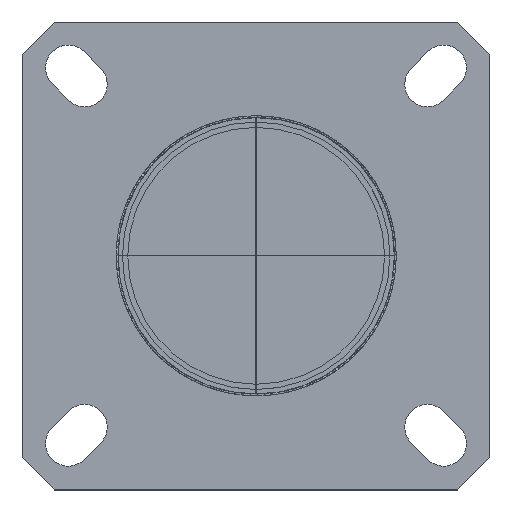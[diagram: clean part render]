
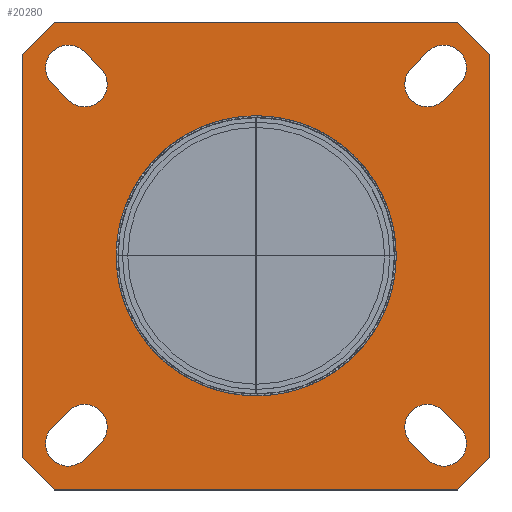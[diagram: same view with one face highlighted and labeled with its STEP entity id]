
A CAD part, top view. The second image highlights one B-rep face of the part: STEP entity #20280.
In plain terms, the highlighted planar face has unit normal (0, 0, 1).
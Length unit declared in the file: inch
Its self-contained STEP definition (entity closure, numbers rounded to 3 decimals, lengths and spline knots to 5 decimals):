
#6694=CARTESIAN_POINT('',(0.,0.,0.));
#6695=DIRECTION('',(0.,0.,1.));
#6696=DIRECTION('',(1.,0.,0.));
#6697=AXIS2_PLACEMENT_3D('',#6694,#6695,#6696);
#8747=DIRECTION('',(0.707,0.707,0.));
#8748=VECTOR('',#8747,0.128);
#8749=CARTESIAN_POINT('',(-0.662,0.57049,0.));
#8750=LINE('',#8749,#8748);
#8751=DIRECTION('',(1.,0.,0.));
#8752=VECTOR('',#8751,1.14198);
#8753=CARTESIAN_POINT('',(-0.57149,0.661,0.));
#8754=LINE('',#8753,#8752);
#8755=DIRECTION('',(0.707,-0.707,0.));
#8756=VECTOR('',#8755,0.128);
#8757=CARTESIAN_POINT('',(0.57049,0.661,0.));
#8758=LINE('',#8757,#8756);
#8759=DIRECTION('',(0.,-1.,0.));
#8760=VECTOR('',#8759,1.14198);
#8761=CARTESIAN_POINT('',(0.661,0.57049,0.));
#8762=LINE('',#8761,#8760);
#8763=DIRECTION('',(-0.707,-0.707,0.));
#8764=VECTOR('',#8763,0.128);
#8765=CARTESIAN_POINT('',(0.661,-0.57149,0.));
#8766=LINE('',#8765,#8764);
#8767=DIRECTION('',(-1.,0.,0.));
#8768=VECTOR('',#8767,1.14198);
#8769=CARTESIAN_POINT('',(0.57049,-0.662,0.));
#8770=LINE('',#8769,#8768);
#8771=DIRECTION('',(-0.707,0.707,0.));
#8772=VECTOR('',#8771,0.128);
#8773=CARTESIAN_POINT('',(-0.57149,-0.662,0.));
#8774=LINE('',#8773,#8772);
#8775=DIRECTION('',(0.,1.,0.));
#8776=VECTOR('',#8775,1.14198);
#8777=CARTESIAN_POINT('',(-0.662,-0.57149,0.));
#8778=LINE('',#8777,#8776);
#8779=DIRECTION('',(-0.707,-0.707,0.));
#8780=VECTOR('',#8779,0.06576);
#8781=CARTESIAN_POINT('',(-0.53025,-0.43875,0.));
#8782=LINE('',#8781,#8780);
#8783=CARTESIAN_POINT('',(-0.5315,-0.5305,0.));
#8784=DIRECTION('',(0.,0.,1.));
#8785=DIRECTION('',(-0.707,0.707,0.));
#8786=AXIS2_PLACEMENT_3D('',#8783,#8784,#8785);
#8788=DIRECTION('',(0.707,0.707,0.));
#8789=VECTOR('',#8788,0.06576);
#8790=CARTESIAN_POINT('',(-0.48625,-0.57575,0.));
#8791=LINE('',#8790,#8789);
#8792=CARTESIAN_POINT('',(-0.485,-0.484,0.));
#8793=DIRECTION('',(0.,0.,1.));
#8794=DIRECTION('',(0.707,-0.707,0.));
#8795=AXIS2_PLACEMENT_3D('',#8792,#8793,#8794);
#8797=DIRECTION('',(0.707,-0.707,0.));
#8798=VECTOR('',#8797,0.06576);
#8799=CARTESIAN_POINT('',(-0.57675,0.48625,0.));
#8800=LINE('',#8799,#8798);
#8801=CARTESIAN_POINT('',(-0.485,0.485,0.));
#8802=DIRECTION('',(0.,0.,1.));
#8803=DIRECTION('',(-0.707,-0.707,0.));
#8804=AXIS2_PLACEMENT_3D('',#8801,#8802,#8803);
#8806=DIRECTION('',(-0.707,0.707,0.));
#8807=VECTOR('',#8806,0.06576);
#8808=CARTESIAN_POINT('',(-0.43975,0.53025,0.));
#8809=LINE('',#8808,#8807);
#8810=CARTESIAN_POINT('',(-0.5315,0.5315,0.));
#8811=DIRECTION('',(0.,0.,1.));
#8812=DIRECTION('',(0.707,0.707,0.));
#8813=AXIS2_PLACEMENT_3D('',#8810,#8811,#8812);
#8815=DIRECTION('',(-0.707,-0.707,0.));
#8816=VECTOR('',#8815,0.06576);
#8817=CARTESIAN_POINT('',(0.48525,0.57675,0.));
#8818=LINE('',#8817,#8816);
#8819=CARTESIAN_POINT('',(0.484,0.485,0.));
#8820=DIRECTION('',(0.,0.,1.));
#8821=DIRECTION('',(-0.707,0.707,0.));
#8822=AXIS2_PLACEMENT_3D('',#8819,#8820,#8821);
#8824=DIRECTION('',(0.707,0.707,0.));
#8825=VECTOR('',#8824,0.06576);
#8826=CARTESIAN_POINT('',(0.52925,0.43975,0.));
#8827=LINE('',#8826,#8825);
#8828=CARTESIAN_POINT('',(0.5305,0.5315,0.));
#8829=DIRECTION('',(0.,0.,1.));
#8830=DIRECTION('',(0.707,-0.707,0.));
#8831=AXIS2_PLACEMENT_3D('',#8828,#8829,#8830);
#8833=CARTESIAN_POINT('',(0.484,-0.484,0.));
#8834=DIRECTION('',(0.,0.,1.));
#8835=DIRECTION('',(0.707,0.707,0.));
#8836=AXIS2_PLACEMENT_3D('',#8833,#8834,#8835);
#8838=DIRECTION('',(0.707,-0.707,0.));
#8839=VECTOR('',#8838,0.06576);
#8840=CARTESIAN_POINT('',(0.43875,-0.52925,0.));
#8841=LINE('',#8840,#8839);
#8842=CARTESIAN_POINT('',(0.5305,-0.5305,0.));
#8843=DIRECTION('',(0.,0.,1.));
#8844=DIRECTION('',(-0.707,-0.707,0.));
#8845=AXIS2_PLACEMENT_3D('',#8842,#8843,#8844);
#8847=DIRECTION('',(-0.707,0.707,0.));
#8848=VECTOR('',#8847,0.06576);
#8849=CARTESIAN_POINT('',(0.57575,-0.48525,0.));
#8850=LINE('',#8849,#8848);
#9051=CARTESIAN_POINT('',(0.,0.,0.));
#9052=DIRECTION('',(0.,0.,1.));
#9053=DIRECTION('',(-1.,0.,0.));
#9054=AXIS2_PLACEMENT_3D('',#9051,#9052,#9053);
#15390=CARTESIAN_POINT('',(-0.662,0.57049,0.));
#15391=CARTESIAN_POINT('',(-0.57149,0.661,0.));
#15392=VERTEX_POINT('',#15390);
#15393=VERTEX_POINT('',#15391);
#15394=CARTESIAN_POINT('',(0.57049,0.661,0.));
#15395=VERTEX_POINT('',#15394);
#15396=CARTESIAN_POINT('',(0.661,0.57049,0.));
#15397=VERTEX_POINT('',#15396);
#15398=CARTESIAN_POINT('',(0.661,-0.57149,0.));
#15399=VERTEX_POINT('',#15398);
#15400=CARTESIAN_POINT('',(0.57049,-0.662,0.));
#15401=VERTEX_POINT('',#15400);
#15402=CARTESIAN_POINT('',(-0.57149,-0.662,0.));
#15403=VERTEX_POINT('',#15402);
#15404=CARTESIAN_POINT('',(-0.662,-0.57149,0.));
#15405=VERTEX_POINT('',#15404);
#15406=CARTESIAN_POINT('',(-0.53025,-0.43875,0.));
#15407=CARTESIAN_POINT('',(-0.57675,-0.48525,0.));
#15408=VERTEX_POINT('',#15406);
#15409=VERTEX_POINT('',#15407);
#15410=CARTESIAN_POINT('',(-0.48625,-0.57575,0.));
#15411=VERTEX_POINT('',#15410);
#15412=CARTESIAN_POINT('',(-0.43975,-0.52925,0.));
#15413=VERTEX_POINT('',#15412);
#15414=CARTESIAN_POINT('',(-0.57675,0.48625,0.));
#15415=CARTESIAN_POINT('',(-0.53025,0.43975,0.));
#15416=VERTEX_POINT('',#15414);
#15417=VERTEX_POINT('',#15415);
#15418=CARTESIAN_POINT('',(-0.43975,0.53025,0.));
#15419=VERTEX_POINT('',#15418);
#15420=CARTESIAN_POINT('',(-0.48625,0.57675,0.));
#15421=VERTEX_POINT('',#15420);
#15422=CARTESIAN_POINT('',(0.48525,0.57675,0.));
#15423=CARTESIAN_POINT('',(0.43875,0.53025,0.));
#15424=VERTEX_POINT('',#15422);
#15425=VERTEX_POINT('',#15423);
#15426=CARTESIAN_POINT('',(0.52925,0.43975,0.));
#15427=VERTEX_POINT('',#15426);
#15428=CARTESIAN_POINT('',(0.57575,0.48625,0.));
#15429=VERTEX_POINT('',#15428);
#15430=CARTESIAN_POINT('',(0.52925,-0.43875,0.));
#15431=CARTESIAN_POINT('',(0.43875,-0.52925,0.));
#15432=VERTEX_POINT('',#15430);
#15433=VERTEX_POINT('',#15431);
#15434=CARTESIAN_POINT('',(0.48525,-0.57575,0.));
#15435=VERTEX_POINT('',#15434);
#15436=CARTESIAN_POINT('',(0.57575,-0.48525,0.));
#15437=VERTEX_POINT('',#15436);
#15486=CARTESIAN_POINT('',(0.3955,0.,0.));
#15487=CARTESIAN_POINT('',(-0.3955,0.,0.));
#15488=VERTEX_POINT('',#15486);
#15489=VERTEX_POINT('',#15487);
#20212=CARTESIAN_POINT('',(0.,0.,0.));
#20213=DIRECTION('',(0.,0.,-1.));
#20214=DIRECTION('',(0.,-1.,0.));
#20215=AXIS2_PLACEMENT_3D('',#20212,#20213,#20214);
#20216=PLANE('',#20215);
#20218=ORIENTED_EDGE('',*,*,#20217,.T.);
#20220=ORIENTED_EDGE('',*,*,#20219,.T.);
#20222=ORIENTED_EDGE('',*,*,#20221,.T.);
#20224=ORIENTED_EDGE('',*,*,#20223,.T.);
#20226=ORIENTED_EDGE('',*,*,#20225,.T.);
#20228=ORIENTED_EDGE('',*,*,#20227,.T.);
#20230=ORIENTED_EDGE('',*,*,#20229,.T.);
#20232=ORIENTED_EDGE('',*,*,#20231,.T.);
#20233=EDGE_LOOP('',(#20218,#20220,#20222,#20224,#20226,#20228,#20230,#20232));
#20234=FACE_OUTER_BOUND('',#20233,.F.);
#20236=ORIENTED_EDGE('',*,*,#20235,.T.);
#20238=ORIENTED_EDGE('',*,*,#20237,.T.);
#20240=ORIENTED_EDGE('',*,*,#20239,.T.);
#20242=ORIENTED_EDGE('',*,*,#20241,.T.);
#20243=EDGE_LOOP('',(#20236,#20238,#20240,#20242));
#20244=FACE_BOUND('',#20243,.F.);
#20246=ORIENTED_EDGE('',*,*,#20245,.T.);
#20248=ORIENTED_EDGE('',*,*,#20247,.T.);
#20250=ORIENTED_EDGE('',*,*,#20249,.T.);
#20252=ORIENTED_EDGE('',*,*,#20251,.T.);
#20253=EDGE_LOOP('',(#20246,#20248,#20250,#20252));
#20254=FACE_BOUND('',#20253,.F.);
#20256=ORIENTED_EDGE('',*,*,#20255,.T.);
#20258=ORIENTED_EDGE('',*,*,#20257,.T.);
#20260=ORIENTED_EDGE('',*,*,#20259,.T.);
#20262=ORIENTED_EDGE('',*,*,#20261,.T.);
#20263=EDGE_LOOP('',(#20256,#20258,#20260,#20262));
#20264=FACE_BOUND('',#20263,.F.);
#20266=ORIENTED_EDGE('',*,*,#20265,.T.);
#20268=ORIENTED_EDGE('',*,*,#20267,.T.);
#20270=ORIENTED_EDGE('',*,*,#20269,.T.);
#20272=ORIENTED_EDGE('',*,*,#20271,.T.);
#20273=EDGE_LOOP('',(#20266,#20268,#20270,#20272));
#20274=FACE_BOUND('',#20273,.F.);
#20275=ORIENTED_EDGE('',*,*,#19545,.T.);
#20277=ORIENTED_EDGE('',*,*,#20276,.T.);
#20278=EDGE_LOOP('',(#20275,#20277));
#20279=FACE_BOUND('',#20278,.F.);
#20280=ADVANCED_FACE('',(#20234,#20244,#20254,#20264,#20274,#20279),#20216,.F.);
#6698=CIRCLE('',#6697,0.3955);
#8787=CIRCLE('',#8786,0.064);
#8796=CIRCLE('',#8795,0.064);
#8805=CIRCLE('',#8804,0.064);
#8814=CIRCLE('',#8813,0.064);
#8823=CIRCLE('',#8822,0.064);
#8832=CIRCLE('',#8831,0.064);
#8837=CIRCLE('',#8836,0.064);
#8846=CIRCLE('',#8845,0.064);
#9055=CIRCLE('',#9054,0.3955);
#19545=EDGE_CURVE('',#15488,#15489,#6698,.T.);
#20217=EDGE_CURVE('',#15392,#15393,#8750,.T.);
#20219=EDGE_CURVE('',#15393,#15395,#8754,.T.);
#20221=EDGE_CURVE('',#15395,#15397,#8758,.T.);
#20223=EDGE_CURVE('',#15397,#15399,#8762,.T.);
#20225=EDGE_CURVE('',#15399,#15401,#8766,.T.);
#20227=EDGE_CURVE('',#15401,#15403,#8770,.T.);
#20229=EDGE_CURVE('',#15403,#15405,#8774,.T.);
#20231=EDGE_CURVE('',#15405,#15392,#8778,.T.);
#20235=EDGE_CURVE('',#15408,#15409,#8782,.T.);
#20237=EDGE_CURVE('',#15409,#15411,#8787,.T.);
#20239=EDGE_CURVE('',#15411,#15413,#8791,.T.);
#20241=EDGE_CURVE('',#15413,#15408,#8796,.T.);
#20245=EDGE_CURVE('',#15416,#15417,#8800,.T.);
#20247=EDGE_CURVE('',#15417,#15419,#8805,.T.);
#20249=EDGE_CURVE('',#15419,#15421,#8809,.T.);
#20251=EDGE_CURVE('',#15421,#15416,#8814,.T.);
#20255=EDGE_CURVE('',#15424,#15425,#8818,.T.);
#20257=EDGE_CURVE('',#15425,#15427,#8823,.T.);
#20259=EDGE_CURVE('',#15427,#15429,#8827,.T.);
#20261=EDGE_CURVE('',#15429,#15424,#8832,.T.);
#20265=EDGE_CURVE('',#15432,#15433,#8837,.T.);
#20267=EDGE_CURVE('',#15433,#15435,#8841,.T.);
#20269=EDGE_CURVE('',#15435,#15437,#8846,.T.);
#20271=EDGE_CURVE('',#15437,#15432,#8850,.T.);
#20276=EDGE_CURVE('',#15489,#15488,#9055,.T.);
